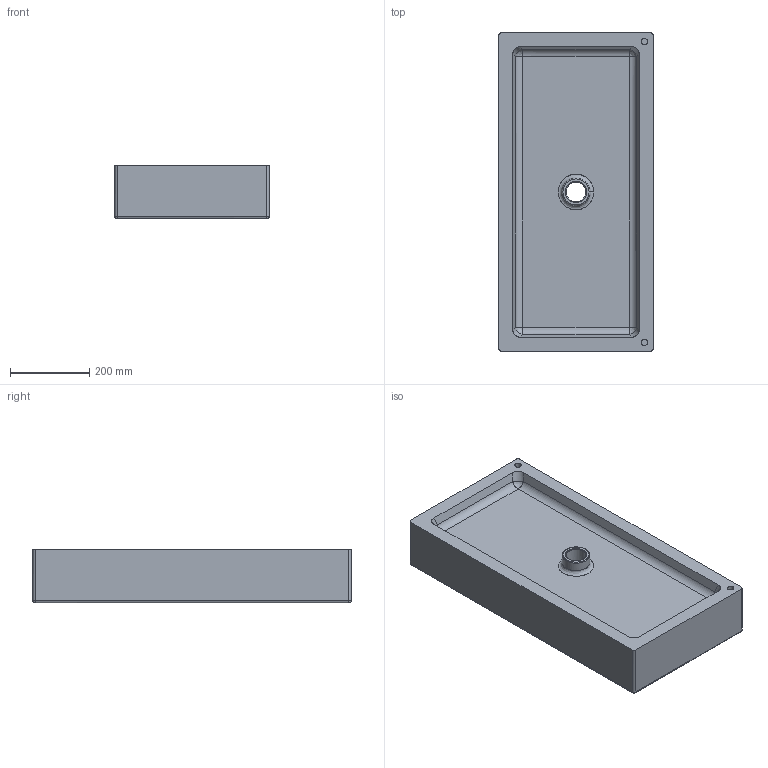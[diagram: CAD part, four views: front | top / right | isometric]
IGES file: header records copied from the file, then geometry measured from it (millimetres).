
Start section: C
Global section: file name: Teorema 80.igs; native system:  By UGS Corp.; preprocessor: XPlus GENERIC/IGES 3.0; author: Author; organization: Title; date: 20140113.105813; units: millimetre
Bounding box: 390 x 805 x 135 mm (x, y, z)
Surface area: 1173440.1 mm2 (no closed solid volume)
Topology: 0 solids, 0 shells, 78 faces, 368 edges, 360 vertices
Faces by surface type: bspline 78
